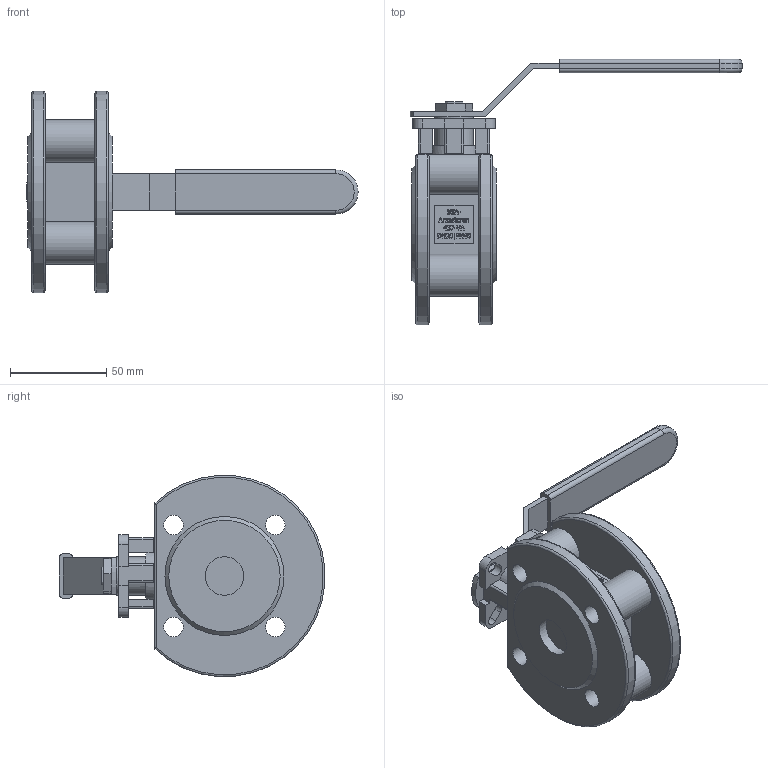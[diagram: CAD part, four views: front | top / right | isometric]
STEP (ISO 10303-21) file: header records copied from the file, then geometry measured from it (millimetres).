
FILE_DESCRIPTION((''),'2;1');
FILE_NAME('K:\Inventor\1 Artikel\12) Flanschen-Kugelhähne\12a) manuell\Econosto\437-VA, 7383\437-VA, DN20\437-VA, DN20, 3D\437-VA, DN20, PN40, HH, 3D.stp','2019-11-07T15:39:27',('claudia'),(''),'Autodesk Inventor 2013','Autodesk Inventor 2013','');
FILE_SCHEMA(('AUTOMOTIVE_DESIGN { 1 0 10303 214 1 1 1 1 }'));
Length unit declared in the file: millimetre
Products named in the file (1): Bauteil3
Bounding box: 172.92 x 138.4 x 104.74 mm (x, y, z)
Volume: 243773.7 mm3; surface area: 57693.3 mm2
Topology: 1 solids, 1 shells, 1231 faces, 3330 edges, 2204 vertices
Faces by surface type: plane 735, bspline 425, cylinder 55, sphere 8, torus 6, cone 2
Full cylindrical faces by diameter (mm): 10.106 x4, 20 x3, 26 x2
Entity records: 42818 total; most frequent: CARTESIAN_POINT 13593, ORIENTED_EDGE 6632, DIRECTION 4217, EDGE_CURVE 3316, VECTOR 2321, LINE 2321, VERTEX_POINT 2201, EDGE_LOOP 1371
